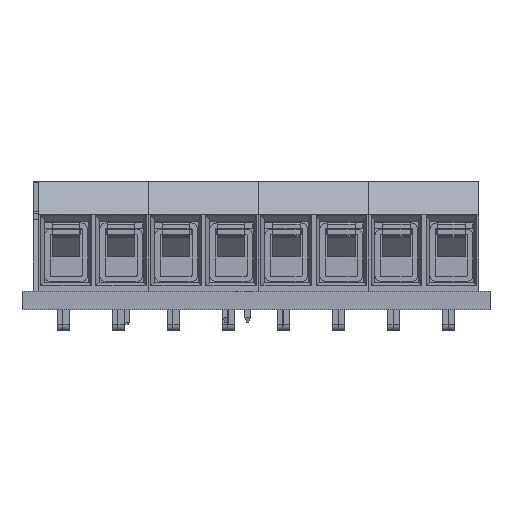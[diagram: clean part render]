
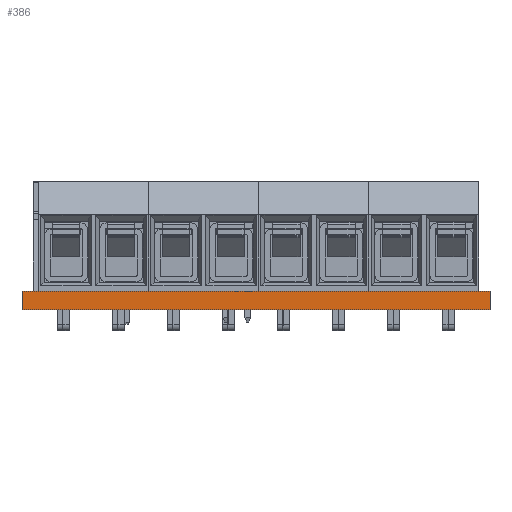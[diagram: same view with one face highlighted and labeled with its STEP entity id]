
A CAD part, front view. The second image highlights one B-rep face of the part: STEP entity #386.
In plain terms, the highlighted planar face has unit normal (0, -1, 0).
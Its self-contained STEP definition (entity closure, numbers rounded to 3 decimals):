
#288 = EDGE_CURVE('',#289,#291,#293,.T.);
#289 = VERTEX_POINT('',#290);
#290 = CARTESIAN_POINT('',(0.,0.,0.));
#291 = VERTEX_POINT('',#292);
#292 = CARTESIAN_POINT('',(0.,0.,1.691));
#293 = LINE('',#294,#295);
#294 = CARTESIAN_POINT('',(0.,0.,0.));
#295 = VECTOR('',#296,1.);
#296 = DIRECTION('',(0.,0.,1.));
#361 = VERTEX_POINT('',#362);
#362 = CARTESIAN_POINT('',(42.5,0.,1.691));
#368 = EDGE_CURVE('',#369,#361,#371,.T.);
#369 = VERTEX_POINT('',#370);
#370 = CARTESIAN_POINT('',(42.5,0.,0.));
#371 = LINE('',#372,#373);
#372 = CARTESIAN_POINT('',(42.5,0.,0.));
#373 = VECTOR('',#374,1.);
#374 = DIRECTION('',(0.,0.,1.));
#386 = ADVANCED_FACE('',(#387),#403,.T.);
#387 = FACE_BOUND('',#388,.T.);
#388 = EDGE_LOOP('',(#389,#390,#396,#397));
#389 = ORIENTED_EDGE('',*,*,#368,.T.);
#390 = ORIENTED_EDGE('',*,*,#391,.T.);
#391 = EDGE_CURVE('',#361,#291,#392,.T.);
#392 = LINE('',#393,#394);
#393 = CARTESIAN_POINT('',(42.5,0.,1.691));
#394 = VECTOR('',#395,1.);
#395 = DIRECTION('',(-1.,0.,0.));
#396 = ORIENTED_EDGE('',*,*,#288,.F.);
#397 = ORIENTED_EDGE('',*,*,#398,.F.);
#398 = EDGE_CURVE('',#369,#289,#399,.T.);
#399 = LINE('',#400,#401);
#400 = CARTESIAN_POINT('',(42.5,0.,0.));
#401 = VECTOR('',#402,1.);
#402 = DIRECTION('',(-1.,0.,0.));
#403 = PLANE('',#404);
#404 = AXIS2_PLACEMENT_3D('',#405,#406,#407);
#405 = CARTESIAN_POINT('',(42.5,0.,0.));
#406 = DIRECTION('',(0.,-1.,0.));
#407 = DIRECTION('',(-1.,0.,0.));
